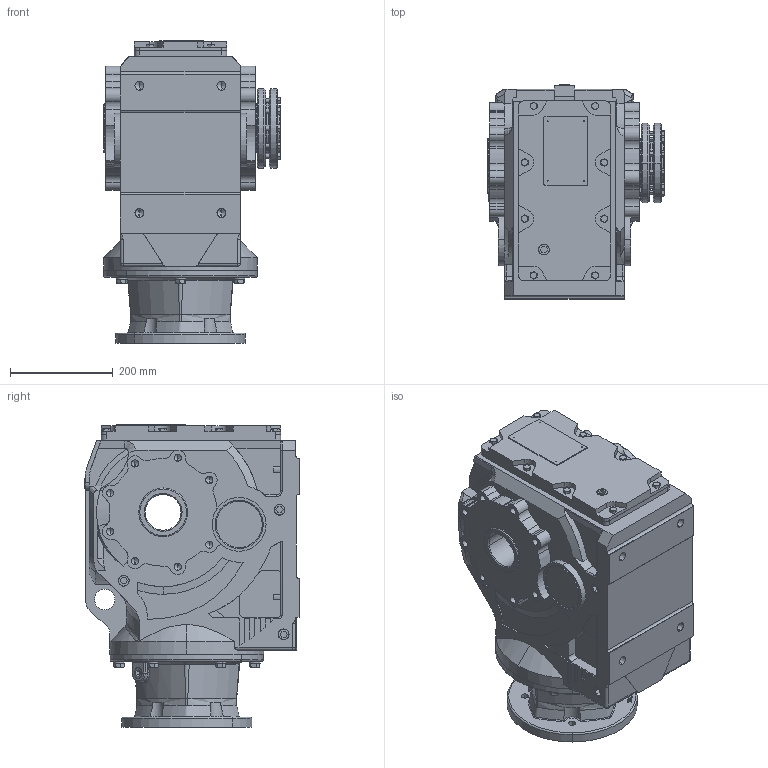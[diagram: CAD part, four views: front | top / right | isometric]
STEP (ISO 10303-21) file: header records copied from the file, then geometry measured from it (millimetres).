
FILE_DESCRIPTION (( 'STEP AP203' ), '1' );
FILE_NAME ('KAN97-254TC-A-POWER LOCK.STEP', '2020-12-04T06:16:46', ( 'Microsoft' ), ( 'Microsoft' ), 'SwSTEP 2.0', 'SolidWorks 2012', '' );
FILE_SCHEMA (( 'CONFIG_CONTROL_DESIGN' ));
Products named in the file (1): KAN97-254TC-A-POWER LOCK
Bounding box: 345 x 417.5 x 590.5 mm (x, y, z)
Volume: 43941284.7 mm3; surface area: 1420251.4 mm2
Topology: 2 solids, 28 shells, 1882 faces, 4730 edges, 2962 vertices
Faces by surface type: plane 735, cylinder 570, cone 394, bspline 133, torus 47, sphere 3
Entity records: 66411 total; most frequent: CARTESIAN_POINT 22077, ORIENTED_EDGE 9266, DIRECTION 9098, EDGE_CURVE 4633, AXIS2_PLACEMENT_3D 3394, VERTEX_POINT 2962, LINE 2310, VECTOR 2310
